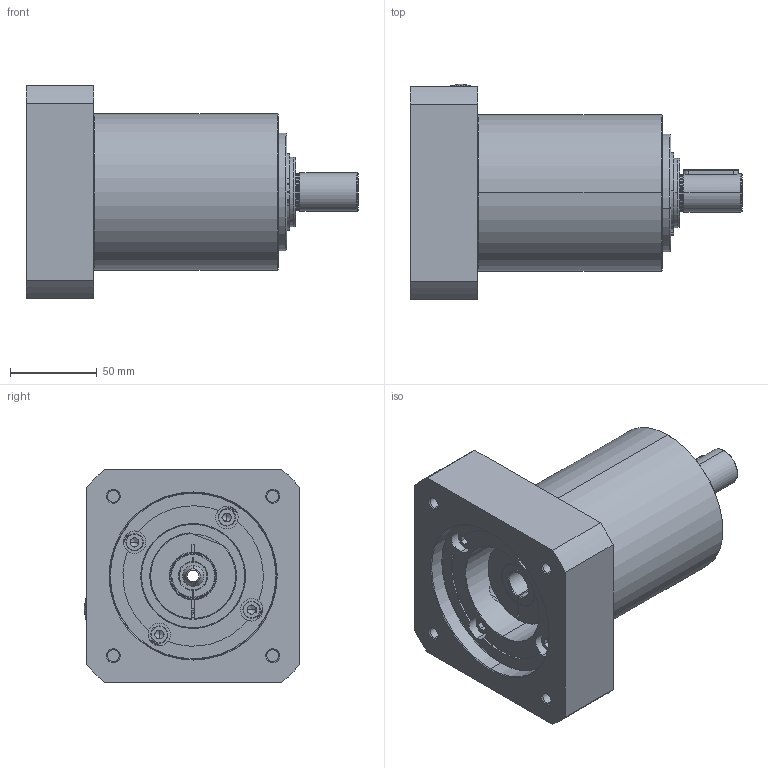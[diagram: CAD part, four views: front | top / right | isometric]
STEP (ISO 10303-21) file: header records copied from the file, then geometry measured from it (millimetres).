
FILE_DESCRIPTION (( 'STEP AP214' ), '1' );
FILE_NAME ('AL-020-RRR-FFF-MMM-S-LL-XXX-CXX-0000.STEP', '2019-10-23T15:27:35', ( '' ), ( '' ), 'SwSTEP 2.0', 'SolidWorks 2019', '' );
FILE_SCHEMA (( 'AUTOMOTIVE_DESIGN' ));
Length unit declared in the file: millimetre
Products named in the file (1): AL-020-RRR-FFF-MMM-S-LL-XXX-CXX-0000
Bounding box: 191.5 x 124.27 x 123 mm (x, y, z)
Surface area: 103898.2 mm2 (no closed solid volume)
Topology: 0 solids, 16 shells, 241 faces, 762 edges, 514 vertices
Faces by surface type: cylinder 78, plane 76, cone 55, torus 30, sphere 2
Entity records: 11392 total; most frequent: CARTESIAN_POINT 2040, DIRECTION 1476, ORIENTED_EDGE 1230, EDGE_CURVE 754, AXIS2_PLACEMENT_3D 573, VERTEX_POINT 514, CIRCLE 331, VECTOR 330
